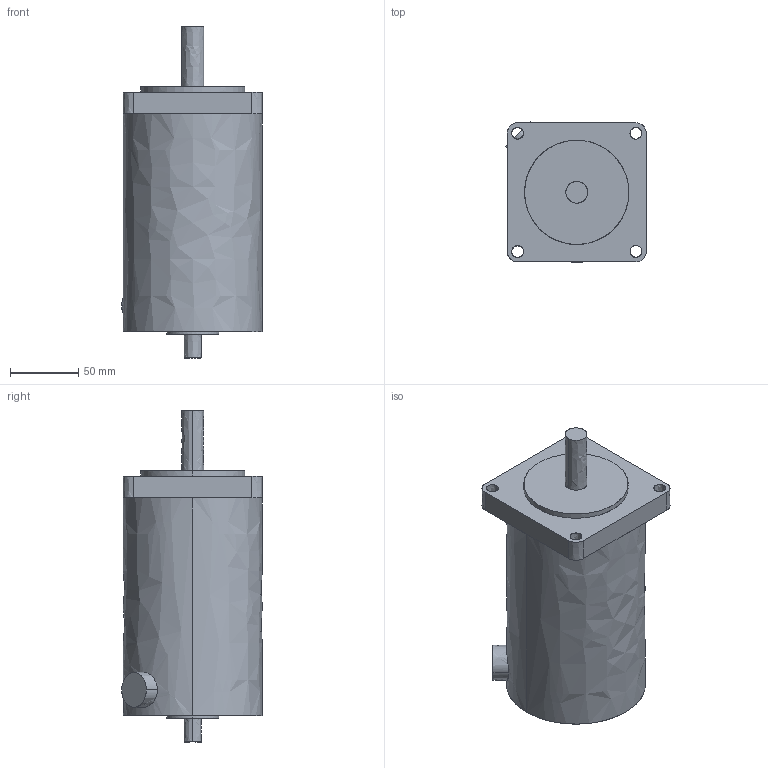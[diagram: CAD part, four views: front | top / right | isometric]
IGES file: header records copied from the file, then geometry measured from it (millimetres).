
Start section: SolidWorks IGES FILE using NURB representation for surfaces
Global section: file name: C:\WINDOWS\Desktop\IGES Models\MagMotor.IGS; native system: SolidWorks 2001 by SolidWorks Corporation; preprocessor: Version 5.2; author: John Howard; date: 011223.111647; units: inch
Bounding box: 102.71 x 102.71 x 242.57 mm (x, y, z)
Surface area: 83805.7 mm2 (no closed solid volume)
Topology: 0 solids, 0 shells, 39 faces, 628 edges, 628 vertices
Faces by surface type: bspline 39
